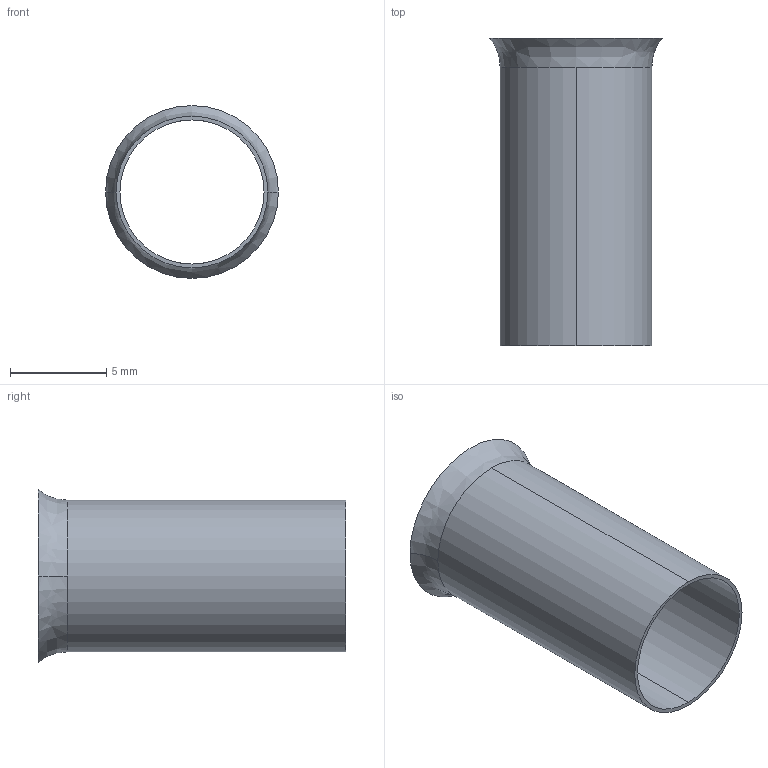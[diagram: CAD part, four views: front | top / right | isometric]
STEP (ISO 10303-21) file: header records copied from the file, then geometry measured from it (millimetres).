
FILE_DESCRIPTION (( 'STEP AP214' ), '1' );
FILE_NAME ('278114 OptiKit T-Shv-W-25-16.STEP', '2020-02-19T10:18:26', ( '' ), ( '' ), 'SwSTEP 2.0', 'SolidWorks 2018', '' );
FILE_SCHEMA (( 'AUTOMOTIVE_DESIGN' ));
Length unit declared in the file: millimetre
Products named in the file (1): 278114 OptiKit T-Shv-W-25-16
Bounding box: 9 x 16 x 9 mm (x, y, z)
Volume: 78.7 mm3; surface area: 795.7 mm2
Topology: 1 solids, 1 shells, 10 faces, 24 edges, 16 vertices
Faces by surface type: bspline 4, cylinder 4, plane 2
Entity records: 390 total; most frequent: CARTESIAN_POINT 123, DIRECTION 50, ORIENTED_EDGE 48, EDGE_CURVE 24, AXIS2_PLACEMENT_3D 23, CIRCLE 16, VERTEX_POINT 16, EDGE_LOOP 12
